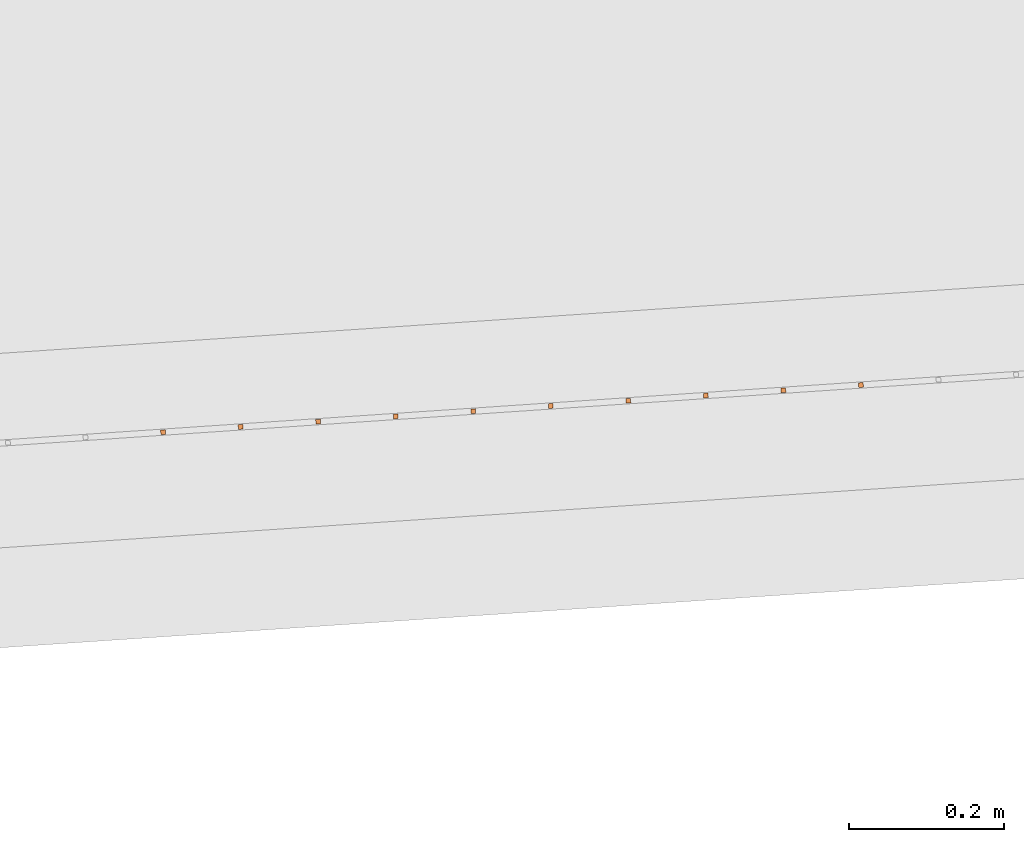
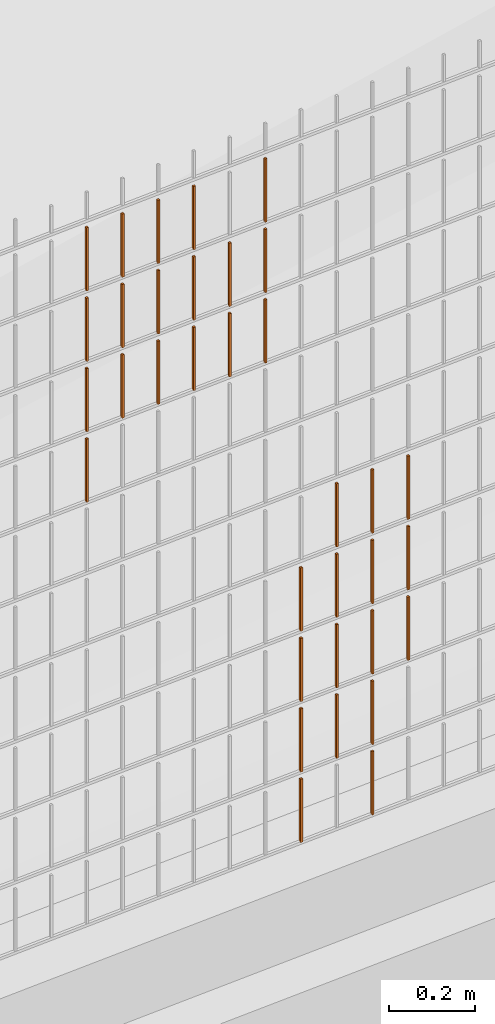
# One storey, part 107 of 1809: 34 proxies, 1 element without a shape of its own.
"""IFC2X3 building model written with IfcOpenShell, lengths in millimetres."""

from ifc_helpers import new_model, entity, si_unit, converted_unit, derived_unit, money_unit, direction, frame, origin_with_axes, place, context, subcontext, project, spatial, faceted_brep, source, transform, mapped, material, type_object, element, aggregate, save


model = new_model("IFC2X3")

# Units and contexts
model_context = context("Model", 3, precision=0.01, world=origin_with_axes(), true_north=direction((0.0, 1.0)))
body_context = subcontext(model_context, "Body", "Model", "MODEL_VIEW")
ifc_project = project(units=[si_unit("LENGTHUNIT", "METRE", prefix="MILLI"), si_unit("AREAUNIT", "SQUARE_METRE"), si_unit("VOLUMEUNIT", "CUBIC_METRE"), converted_unit("PLANEANGLEUNIT", "DEGREE", entity("IfcPlaneAngleMeasure", 0.0174532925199), si_unit("PLANEANGLEUNIT", "RADIAN"), dimensions=[0, 0, 0, 0, 0, 0, 0]), si_unit("SOLIDANGLEUNIT", "STERADIAN"), money_unit("EUR"), converted_unit("TIMEUNIT", "Year", entity("IfcTimeMeasure", 31556926.0), si_unit("TIMEUNIT", "SECOND"), dimensions=[0, 0, 1, 0, 0, 0, 0]), si_unit("MASSUNIT", "GRAM", prefix="KILO"), si_unit("THERMODYNAMICTEMPERATUREUNIT", "DEGREE_CELSIUS"), si_unit("LUMINOUSINTENSITYUNIT", "LUMEN"), si_unit("ENERGYUNIT", "JOULE", prefix="MEGA"), derived_unit("THERMALCONDUCTANCEUNIT", [(si_unit("POWERUNIT", "WATT"), 1), (si_unit("LENGTHUNIT", "METRE"), -1), (si_unit("THERMODYNAMICTEMPERATUREUNIT", "KELVIN"), -1)]), derived_unit("SPECIFICHEATCAPACITYUNIT", [(si_unit("ENERGYUNIT", "JOULE"), 1), (si_unit("MASSUNIT", "GRAM", prefix="KILO"), -1), (si_unit("THERMODYNAMICTEMPERATUREUNIT", "KELVIN"), -1)]), derived_unit("MASSDENSITYUNIT", [(si_unit("MASSUNIT", "GRAM", prefix="KILO"), 1), (si_unit("VOLUMEUNIT", "CUBIC_METRE"), -1)])], contexts=[model_context])

# Site, building, storey
site_placement = place(None, origin_with_axes())
site = spatial("IfcSite", under=ifc_project, at=site_placement, Name="Politse- ja Piirivalveameti ning Päästeameti ühishoone", CompositionType="ELEMENT")
building_placement = place(site_placement, origin_with_axes())
building = spatial("IfcBuilding", under=site, at=building_placement, Name="Politse- ja Piirivalveameti ning Päästeameti ühishoone", CompositionType="ELEMENT")
storey_placement = place(building_placement, origin_with_axes())
storey = spatial("IfcBuildingStorey", under=building, at=storey_placement, Name="Esimene korrus", CompositionType="ELEMENT", Elevation=0.0)

# Proxies
building_element_proxy_type_1 = type_object("IfcBuildingElementProxyType", Name="Railing Type", PredefinedType="NOTDEFINED")
proxy_1_placement = place(storey_placement, frame((89252.001212, -29183.4766571, 203.661247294), z_axis=(0.0, 0.0, 1.0), x_axis=(1.0, 0.0, 0.0)))
proxy_1 = element("IfcBuildingElementProxy", 1, at=proxy_1_placement, inside=storey, type_object=building_element_proxy_type_1, Name="PIIRDEAED")
ifc_material = material(Name="ET-03_Raud")
building_element_proxy_type_2 = type_object("IfcBuildingElementProxyType", Name="IfcBuildingElementProxy", PredefinedType="NOTDEFINED")
shared_shape_1 = source(origin_with_axes(), body_context, "Body", "Brep", [
    faceted_brep([(3.0, 3.0, -0.000752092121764), (-3.0, 3.0, -0.000752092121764), (-3.0, 3.0, 179.99926046), (3.0, 3.0, 179.99926046), (3.0, -3.0, 0.000752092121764), (-3.0, -3.0, 0.000752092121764), (-3.0, -3.0, 180.000764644), (3.0, -3.0, 180.000764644)], [[[0, 1, 2, 3]], [[0, 4, 5, 1]], [[1, 5, 6, 2]], [[3, 2, 6, 7]], [[4, 0, 3, 7]], [[5, 4, 7, 6]]]),
])
proxy_2_placement = place(proxy_1_placement, frame((-93513.603178, -23614.2657487, 203.73735097), z_axis=(0.0, 0.0, 1.0), x_axis=(1.0, 0.0, 0.0)))
proxy_2 = element("IfcBuildingElementProxy", 2, at=proxy_2_placement, type_object=building_element_proxy_type_2, material=ifc_material, Name="BALUSTER - 001", context=body_context, shape_type="MappedRepresentation", body=[
    mapped(shared_shape_1, transform((0.0, 0.0, 0.0), x_axis=(-0.0673926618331, 0.997726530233, 0.0), y_axis=(-0.997726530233, -0.0673926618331, 0.0), z_axis=(0.0, 0.0, 1.0))),
])
proxy_3_placement = place(proxy_1_placement, frame((-93513.603178, -23614.2657487, 603.73735097), z_axis=(0.0, 0.0, 1.0), x_axis=(1.0, 0.0, 0.0)))
proxy_3 = element("IfcBuildingElementProxy", 3, at=proxy_3_placement, type_object=building_element_proxy_type_2, material=ifc_material, Name="BALUSTER - 001", context=body_context, shape_type="MappedRepresentation", body=[
    mapped(shared_shape_1, transform((0.0, 0.0, 0.0), x_axis=(-0.0673926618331, 0.997726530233, 0.0), y_axis=(-0.997726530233, -0.0673926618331, 0.0), z_axis=(0.0, 0.0, 1.0))),
])
shared_shape_2 = source(origin_with_axes(), body_context, "Body", "Brep", [
    faceted_brep([(3.0, 3.0, -0.000752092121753), (-3.0, 3.0, -0.000752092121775), (-3.0, 3.0, 179.99926046), (3.0, 3.0, 179.99926046), (3.0, -3.0, 0.000752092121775), (-3.0, -3.0, 0.000752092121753), (-3.0, -3.0, 180.000764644), (3.0, -3.0, 180.000764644)], [[[0, 1, 2, 3]], [[0, 4, 5, 1]], [[1, 5, 6, 2]], [[3, 2, 6, 7]], [[4, 0, 3, 7]], [[5, 4, 7, 6]]]),
])
proxy_4_placement = place(proxy_1_placement, frame((-93314.057872, -23600.7872163, 3.78749044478), z_axis=(0.0, 0.0, 1.0), x_axis=(1.0, 0.0, 0.0)))
proxy_4 = element("IfcBuildingElementProxy", 4, at=proxy_4_placement, type_object=building_element_proxy_type_2, material=ifc_material, Name="BALUSTER - 001", context=body_context, shape_type="MappedRepresentation", body=[
    mapped(shared_shape_2, transform((0.0, 0.0, 0.0), x_axis=(-0.0673926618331, 0.997726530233, 0.0), y_axis=(-0.997726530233, -0.0673926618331, 0.0), z_axis=(0.0, 0.0, 1.0))),
])
shared_shape_3 = source(origin_with_axes(), body_context, "Body", "Brep", [
    faceted_brep([(3.0, 3.0, -0.000752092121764), (-3.0, 3.0, -0.000752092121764), (-3.0, 3.0, 179.99926046), (3.0, 3.0, 179.99926046), (3.0, -3.0, 0.000752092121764), (-3.0, -3.0, 0.000752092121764), (-3.0, -3.0, 180.000764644), (3.0, -3.0, 180.000764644)], [[[0, 1, 2, 3]], [[0, 4, 5, 1]], [[1, 5, 6, 2]], [[3, 2, 6, 7]], [[4, 0, 3, 7]], [[5, 4, 7, 6]]]),
])
proxy_5_placement = place(proxy_1_placement, frame((-93413.830525, -23607.5264825, 403.762420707), z_axis=(0.0, 0.0, 1.0), x_axis=(1.0, 0.0, 0.0)))
proxy_5 = element("IfcBuildingElementProxy", 5, at=proxy_5_placement, type_object=building_element_proxy_type_2, material=ifc_material, Name="BALUSTER - 001", context=body_context, shape_type="MappedRepresentation", body=[
    mapped(shared_shape_3, transform((0.0, 0.0, 0.0), x_axis=(-0.0673926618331, 0.997726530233, 0.0), y_axis=(-0.997726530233, -0.0673926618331, 0.0), z_axis=(0.0, 0.0, 1.0))),
])
proxy_6_placement = place(proxy_1_placement, frame((-93413.830525, -23607.5264825, 603.762420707), z_axis=(0.0, 0.0, 1.0), x_axis=(1.0, 0.0, 0.0)))
proxy_6 = element("IfcBuildingElementProxy", 6, at=proxy_6_placement, type_object=building_element_proxy_type_2, material=ifc_material, Name="BALUSTER - 001", context=body_context, shape_type="MappedRepresentation", body=[
    mapped(shared_shape_3, transform((0.0, 0.0, 0.0), x_axis=(-0.0673926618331, 0.997726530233, 0.0), y_axis=(-0.997726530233, -0.0673926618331, 0.0), z_axis=(0.0, 0.0, 1.0))),
])
shared_shape_4 = source(origin_with_axes(), body_context, "Body", "Brep", [
    faceted_brep([(3.0, 3.0, -0.000752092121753), (-3.0, 3.0, -0.000752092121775), (-3.0, 3.0, 179.99926046), (3.0, 3.0, 179.99926046), (3.0, -3.0, 0.000752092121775), (-3.0, -3.0, 0.000752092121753), (-3.0, -3.0, 180.000764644), (3.0, -3.0, 180.000764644)], [[[0, 1, 2, 3]], [[0, 4, 5, 1]], [[1, 5, 6, 2]], [[3, 2, 6, 7]], [[4, 0, 3, 7]], [[5, 4, 7, 6]]]),
])
proxy_7_placement = place(proxy_1_placement, frame((-93314.057872, -23600.7872163, 203.787490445), z_axis=(0.0, 0.0, 1.0), x_axis=(1.0, 0.0, 0.0)))
proxy_7 = element("IfcBuildingElementProxy", 7, at=proxy_7_placement, type_object=building_element_proxy_type_2, material=ifc_material, Name="BALUSTER - 001", context=body_context, shape_type="MappedRepresentation", body=[
    mapped(shared_shape_4, transform((0.0, 0.0, 0.0), x_axis=(-0.0673926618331, 0.997726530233, 0.0), y_axis=(-0.997726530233, -0.0673926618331, 0.0), z_axis=(0.0, 0.0, 1.0))),
])
shared_shape_5 = source(origin_with_axes(), body_context, "Body", "Brep", [
    faceted_brep([(3.0, 3.0, -0.000752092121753), (-3.0, 3.0, -0.000752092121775), (-3.0, 3.0, 179.99926046), (3.0, 3.0, 179.99926046), (3.0, -3.0, 0.000752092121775), (-3.0, -3.0, 0.000752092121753), (-3.0, -3.0, 180.000764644), (3.0, -3.0, 180.000764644)], [[[0, 1, 2, 3]], [[0, 4, 5, 1]], [[1, 5, 6, 2]], [[3, 2, 6, 7]], [[4, 0, 3, 7]], [[5, 4, 7, 6]]]),
])
proxy_8_placement = place(proxy_1_placement, frame((-93314.057872, -23600.7872163, 403.787490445), z_axis=(0.0, 0.0, 1.0), x_axis=(1.0, 0.0, 0.0)))
proxy_8 = element("IfcBuildingElementProxy", 8, at=proxy_8_placement, type_object=building_element_proxy_type_2, material=ifc_material, Name="BALUSTER - 001", context=body_context, shape_type="MappedRepresentation", body=[
    mapped(shared_shape_5, transform((0.0, 0.0, 0.0), x_axis=(-0.0673926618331, 0.997726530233, 0.0), y_axis=(-0.997726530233, -0.0673926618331, 0.0), z_axis=(0.0, 0.0, 1.0))),
])
shared_shape_6 = source(origin_with_axes(), body_context, "Body", "Brep", [
    faceted_brep([(3.0, 3.0, -0.000752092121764), (-3.0, 3.0, -0.000752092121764), (-3.0, 3.0, 179.99926046), (3.0, 3.0, 179.99926046), (3.0, -3.0, 0.000752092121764), (-3.0, -3.0, 0.000752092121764), (-3.0, -3.0, 180.000764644), (3.0, -3.0, 180.000764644)], [[[0, 1, 2, 3]], [[0, 4, 5, 1]], [[1, 5, 6, 2]], [[3, 2, 6, 7]], [[4, 0, 3, 7]], [[5, 4, 7, 6]]]),
])
proxy_9_placement = place(proxy_1_placement, frame((-93513.603178, -23614.2657487, 403.73735097), z_axis=(0.0, 0.0, 1.0), x_axis=(1.0, 0.0, 0.0)))
proxy_9 = element("IfcBuildingElementProxy", 9, at=proxy_9_placement, type_object=building_element_proxy_type_2, material=ifc_material, Name="BALUSTER - 001", context=body_context, shape_type="MappedRepresentation", body=[
    mapped(shared_shape_6, transform((0.0, 0.0, 0.0), x_axis=(-0.0673926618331, 0.997726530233, 0.0), y_axis=(-0.997726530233, -0.0673926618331, 0.0), z_axis=(0.0, 0.0, 1.0))),
])
shared_shape_7 = source(origin_with_axes(), body_context, "Body", "Brep", [
    faceted_brep([(3.0, 3.0, -0.000752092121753), (-3.0, 3.0, -0.000752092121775), (-3.0, 3.0, 179.99926046), (3.0, 3.0, 179.99926046), (3.0, -3.0, 0.000752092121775), (-3.0, -3.0, 0.000752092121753), (-3.0, -3.0, 180.000764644), (3.0, -3.0, 180.000764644)], [[[0, 1, 2, 3]], [[0, 4, 5, 1]], [[1, 5, 6, 2]], [[3, 2, 6, 7]], [[4, 0, 3, 7]], [[5, 4, 7, 6]]]),
])
proxy_10_placement = place(proxy_1_placement, frame((-93812.9211371, -23634.4835472, 1403.66214176), z_axis=(0.0, 0.0, 1.0), x_axis=(1.0, 0.0, 0.0)))
proxy_10 = element("IfcBuildingElementProxy", 10, at=proxy_10_placement, type_object=building_element_proxy_type_2, material=ifc_material, Name="BALUSTER - 001", context=body_context, shape_type="MappedRepresentation", body=[
    mapped(shared_shape_7, transform((0.0, 0.0, 0.0), x_axis=(-0.0673926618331, 0.997726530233, 0.0), y_axis=(-0.997726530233, -0.0673926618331, 0.0), z_axis=(0.0, 0.0, 1.0))),
])
proxy_11_placement = place(proxy_1_placement, frame((-93812.9211371, -23634.4835472, 1603.66214176), z_axis=(0.0, 0.0, 1.0), x_axis=(1.0, 0.0, 0.0)))
proxy_11 = element("IfcBuildingElementProxy", 11, at=proxy_11_placement, type_object=building_element_proxy_type_2, material=ifc_material, Name="BALUSTER - 001", context=body_context, shape_type="MappedRepresentation", body=[
    mapped(shared_shape_7, transform((0.0, 0.0, 0.0), x_axis=(-0.0673926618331, 0.997726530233, 0.0), y_axis=(-0.997726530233, -0.0673926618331, 0.0), z_axis=(0.0, 0.0, 1.0))),
])
shared_shape_8 = source(origin_with_axes(), body_context, "Body", "Brep", [
    faceted_brep([(3.0, 3.0, -0.000752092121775), (-3.0, 3.0, -0.000752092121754), (-3.0, 3.0, 179.99926046), (3.0, 3.0, 179.99926046), (3.0, -3.0, 0.000752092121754), (-3.0, -3.0, 0.000752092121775), (-3.0, -3.0, 180.000764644), (3.0, -3.0, 180.000764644)], [[[0, 1, 2, 3]], [[0, 4, 5, 1]], [[1, 5, 6, 2]], [[3, 2, 6, 7]], [[4, 0, 3, 7]], [[5, 4, 7, 6]]]),
])
proxy_12_placement = place(proxy_1_placement, frame((-93713.1484841, -23627.744281, 1403.6872115), z_axis=(0.0, 0.0, 1.0), x_axis=(1.0, 0.0, 0.0)))
proxy_12 = element("IfcBuildingElementProxy", 12, at=proxy_12_placement, type_object=building_element_proxy_type_2, material=ifc_material, Name="BALUSTER - 001", context=body_context, shape_type="MappedRepresentation", body=[
    mapped(shared_shape_8, transform((0.0, 0.0, 0.0), x_axis=(-0.0673926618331, 0.997726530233, 0.0), y_axis=(-0.997726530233, -0.0673926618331, 0.0), z_axis=(0.0, 0.0, 1.0))),
])
proxy_13_placement = place(proxy_1_placement, frame((-93713.1484841, -23627.744281, 1603.6872115), z_axis=(0.0, 0.0, 1.0), x_axis=(1.0, 0.0, 0.0)))
proxy_13 = element("IfcBuildingElementProxy", 13, at=proxy_13_placement, type_object=building_element_proxy_type_2, material=ifc_material, Name="BALUSTER - 001", context=body_context, shape_type="MappedRepresentation", body=[
    mapped(shared_shape_8, transform((0.0, 0.0, 0.0), x_axis=(-0.0673926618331, 0.997726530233, 0.0), y_axis=(-0.997726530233, -0.0673926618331, 0.0), z_axis=(0.0, 0.0, 1.0))),
])
shared_shape_9 = source(origin_with_axes(), body_context, "Body", "Brep", [
    faceted_brep([(3.0, 3.0, -0.000752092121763), (-3.0, 3.0, -0.000752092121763), (-3.0, 3.0, 179.99926046), (3.0, 3.0, 179.99926046), (3.0, -3.0, 0.000752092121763), (-3.0, -3.0, 0.000752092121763), (-3.0, -3.0, 180.000764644), (3.0, -3.0, 180.000764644)], [[[0, 1, 2, 3]], [[0, 4, 5, 1]], [[1, 5, 6, 2]], [[3, 2, 6, 7]], [[4, 0, 3, 7]], [[5, 4, 7, 6]]]),
])
proxy_14_placement = place(proxy_1_placement, frame((-93613.3758311, -23621.0050149, 1803.71228123), z_axis=(0.0, 0.0, 1.0), x_axis=(1.0, 0.0, 0.0)))
proxy_14 = element("IfcBuildingElementProxy", 14, at=proxy_14_placement, type_object=building_element_proxy_type_2, material=ifc_material, Name="BALUSTER - 001", context=body_context, shape_type="MappedRepresentation", body=[
    mapped(shared_shape_9, transform((0.0, 0.0, 0.0), x_axis=(-0.0673926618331, 0.997726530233, 0.0), y_axis=(-0.997726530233, -0.0673926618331, 0.0), z_axis=(0.0, 0.0, 1.0))),
])
shared_shape_10 = source(origin_with_axes(), body_context, "Body", "Brep", [
    faceted_brep([(3.0, 3.0, -0.000752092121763), (-3.0, 3.0, -0.000752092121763), (-3.0, 3.0, 179.99926046), (3.0, 3.0, 179.99926046), (3.0, -3.0, 0.000752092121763), (-3.0, -3.0, 0.000752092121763), (-3.0, -3.0, 180.000764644), (3.0, -3.0, 180.000764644)], [[[0, 1, 2, 3]], [[0, 4, 5, 1]], [[1, 5, 6, 2]], [[3, 2, 6, 7]], [[4, 0, 3, 7]], [[5, 4, 7, 6]]]),
])
proxy_15_placement = place(proxy_1_placement, frame((-93413.830525, -23607.5264825, 803.762420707), z_axis=(0.0, 0.0, 1.0), x_axis=(1.0, 0.0, 0.0)))
proxy_15 = element("IfcBuildingElementProxy", 15, at=proxy_15_placement, type_object=building_element_proxy_type_2, material=ifc_material, Name="BALUSTER - 001", context=body_context, shape_type="MappedRepresentation", body=[
    mapped(shared_shape_10, transform((0.0, 0.0, 0.0), x_axis=(-0.0673926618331, 0.997726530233, 0.0), y_axis=(-0.997726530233, -0.0673926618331, 0.0), z_axis=(0.0, 0.0, 1.0))),
])
shared_shape_11 = source(origin_with_axes(), body_context, "Body", "Brep", [
    faceted_brep([(3.0, 3.0, -0.000752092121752), (-3.0, 3.0, -0.000752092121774), (-3.0, 3.0, 179.99926046), (3.0, 3.0, 179.99926046), (3.0, -3.0, 0.000752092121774), (-3.0, -3.0, 0.000752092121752), (-3.0, -3.0, 180.000764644), (3.0, -3.0, 180.000764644)], [[[0, 1, 2, 3]], [[0, 4, 5, 1]], [[1, 5, 6, 2]], [[3, 2, 6, 7]], [[4, 0, 3, 7]], [[5, 4, 7, 6]]]),
])
proxy_16_placement = place(proxy_1_placement, frame((-93314.057872, -23600.7872163, 803.787490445), z_axis=(0.0, 0.0, 1.0), x_axis=(1.0, 0.0, 0.0)))
proxy_16 = element("IfcBuildingElementProxy", 16, at=proxy_16_placement, type_object=building_element_proxy_type_2, material=ifc_material, Name="BALUSTER - 001", context=body_context, shape_type="MappedRepresentation", body=[
    mapped(shared_shape_11, transform((0.0, 0.0, 0.0), x_axis=(-0.0673926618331, 0.997726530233, 0.0), y_axis=(-0.997726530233, -0.0673926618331, 0.0), z_axis=(0.0, 0.0, 1.0))),
])
shared_shape_12 = source(origin_with_axes(), body_context, "Body", "Brep", [
    faceted_brep([(3.0, 3.0, -0.000752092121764), (-3.0, 3.0, -0.000752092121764), (-3.0, 3.0, 179.99926046), (3.0, 3.0, 179.99926046), (3.0, -3.0, 0.000752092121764), (-3.0, -3.0, 0.000752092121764), (-3.0, -3.0, 180.000764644), (3.0, -3.0, 180.000764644)], [[[0, 1, 2, 3]], [[0, 4, 5, 1]], [[1, 5, 6, 2]], [[3, 2, 6, 7]], [[4, 0, 3, 7]], [[5, 4, 7, 6]]]),
])
proxy_17_placement = place(proxy_1_placement, frame((-94012.4664431, -23647.9620796, 1803.61200228), z_axis=(0.0, 0.0, 1.0), x_axis=(1.0, 0.0, 0.0)))
proxy_17 = element("IfcBuildingElementProxy", 17, at=proxy_17_placement, type_object=building_element_proxy_type_2, material=ifc_material, Name="BALUSTER - 001", context=body_context, shape_type="MappedRepresentation", body=[
    mapped(shared_shape_12, transform((0.0, 0.0, 0.0), x_axis=(-0.0673926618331, 0.997726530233, 0.0), y_axis=(-0.997726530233, -0.0673926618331, 0.0), z_axis=(0.0, 0.0, 1.0))),
])
shared_shape_13 = source(origin_with_axes(), body_context, "Body", "Brep", [
    faceted_brep([(3.0, 3.0, -0.000752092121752), (-3.0, 3.0, -0.000752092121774), (-3.0, 3.0, 179.99926046), (3.0, 3.0, 179.99926046), (3.0, -3.0, 0.000752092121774), (-3.0, -3.0, 0.000752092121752), (-3.0, -3.0, 180.000764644), (3.0, -3.0, 180.000764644)], [[[0, 1, 2, 3]], [[0, 4, 5, 1]], [[1, 5, 6, 2]], [[3, 2, 6, 7]], [[4, 0, 3, 7]], [[5, 4, 7, 6]]]),
])
proxy_18_placement = place(proxy_1_placement, frame((-93214.285219, -23594.0479501, 803.812560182), z_axis=(0.0, 0.0, 1.0), x_axis=(1.0, 0.0, 0.0)))
proxy_18 = element("IfcBuildingElementProxy", 18, at=proxy_18_placement, type_object=building_element_proxy_type_2, material=ifc_material, Name="BALUSTER - 001", context=body_context, shape_type="MappedRepresentation", body=[
    mapped(shared_shape_13, transform((0.0, 0.0, 0.0), x_axis=(-0.0673926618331, 0.997726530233, 0.0), y_axis=(-0.997726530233, -0.0673926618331, 0.0), z_axis=(0.0, 0.0, 1.0))),
])
shared_shape_14 = source(origin_with_axes(), body_context, "Body", "Brep", [
    faceted_brep([(3.0, 3.0, -0.000752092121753), (-3.0, 3.0, -0.000752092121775), (-3.0, 3.0, 179.99926046), (3.0, 3.0, 179.99926046), (3.0, -3.0, 0.000752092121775), (-3.0, -3.0, 0.000752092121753), (-3.0, -3.0, 180.000764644), (3.0, -3.0, 180.000764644)], [[[0, 1, 2, 3]], [[0, 4, 5, 1]], [[1, 5, 6, 2]], [[3, 2, 6, 7]], [[4, 0, 3, 7]], [[5, 4, 7, 6]]]),
])
proxy_19_placement = place(proxy_1_placement, frame((-93314.057872, -23600.7872163, 603.787490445), z_axis=(0.0, 0.0, 1.0), x_axis=(1.0, 0.0, 0.0)))
proxy_19 = element("IfcBuildingElementProxy", 19, at=proxy_19_placement, type_object=building_element_proxy_type_2, material=ifc_material, Name="BALUSTER - 001", context=body_context, shape_type="MappedRepresentation", body=[
    mapped(shared_shape_14, transform((0.0, 0.0, 0.0), x_axis=(-0.0673926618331, 0.997726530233, 0.0), y_axis=(-0.997726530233, -0.0673926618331, 0.0), z_axis=(0.0, 0.0, 1.0))),
])
shared_shape_15 = source(origin_with_axes(), body_context, "Body", "Brep", [
    faceted_brep([(3.0, 3.0, -0.000752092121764), (-3.0, 3.0, -0.000752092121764), (-3.0, 3.0, 179.99926046), (3.0, 3.0, 179.99926046), (3.0, -3.0, 0.000752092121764), (-3.0, -3.0, 0.000752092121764), (-3.0, -3.0, 180.000764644), (3.0, -3.0, 180.000764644)], [[[0, 1, 2, 3]], [[0, 4, 5, 1]], [[1, 5, 6, 2]], [[3, 2, 6, 7]], [[4, 0, 3, 7]], [[5, 4, 7, 6]]]),
])
proxy_20_placement = place(proxy_1_placement, frame((-93513.603178, -23614.2657487, 3.73735096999), z_axis=(0.0, 0.0, 1.0), x_axis=(1.0, 0.0, 0.0)))
proxy_20 = element("IfcBuildingElementProxy", 20, at=proxy_20_placement, type_object=building_element_proxy_type_2, material=ifc_material, Name="BALUSTER - 001", context=body_context, shape_type="MappedRepresentation", body=[
    mapped(shared_shape_15, transform((0.0, 0.0, 0.0), x_axis=(-0.0673926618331, 0.997726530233, 0.0), y_axis=(-0.997726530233, -0.0673926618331, 0.0), z_axis=(0.0, 0.0, 1.0))),
])
shared_shape_16 = source(origin_with_axes(), body_context, "Body", "Brep", [
    faceted_brep([(3.0, 3.0, -0.000752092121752), (-3.0, 3.0, -0.000752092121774), (-3.0, 3.0, 179.99926046), (3.0, 3.0, 179.99926046), (3.0, -3.0, 0.000752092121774), (-3.0, -3.0, 0.000752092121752), (-3.0, -3.0, 180.000764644), (3.0, -3.0, 180.000764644)], [[[0, 1, 2, 3]], [[0, 4, 5, 1]], [[1, 5, 6, 2]], [[3, 2, 6, 7]], [[4, 0, 3, 7]], [[5, 4, 7, 6]]]),
])
proxy_21_placement = place(proxy_1_placement, frame((-93214.285219, -23594.0479501, 403.812560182), z_axis=(0.0, 0.0, 1.0), x_axis=(1.0, 0.0, 0.0)))
proxy_21 = element("IfcBuildingElementProxy", 21, at=proxy_21_placement, type_object=building_element_proxy_type_2, material=ifc_material, Name="BALUSTER - 001", context=body_context, shape_type="MappedRepresentation", body=[
    mapped(shared_shape_16, transform((0.0, 0.0, 0.0), x_axis=(-0.0673926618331, 0.997726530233, 0.0), y_axis=(-0.997726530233, -0.0673926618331, 0.0), z_axis=(0.0, 0.0, 1.0))),
])
shared_shape_17 = source(origin_with_axes(), body_context, "Body", "Brep", [
    faceted_brep([(3.0, 3.0, -0.000752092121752), (-3.0, 3.0, -0.000752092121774), (-3.0, 3.0, 179.99926046), (3.0, 3.0, 179.99926046), (3.0, -3.0, 0.000752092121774), (-3.0, -3.0, 0.000752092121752), (-3.0, -3.0, 180.000764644), (3.0, -3.0, 180.000764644)], [[[0, 1, 2, 3]], [[0, 4, 5, 1]], [[1, 5, 6, 2]], [[3, 2, 6, 7]], [[4, 0, 3, 7]], [[5, 4, 7, 6]]]),
])
proxy_22_placement = place(proxy_1_placement, frame((-93214.285219, -23594.0479501, 603.812560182), z_axis=(0.0, 0.0, 1.0), x_axis=(1.0, 0.0, 0.0)))
proxy_22 = element("IfcBuildingElementProxy", 22, at=proxy_22_placement, type_object=building_element_proxy_type_2, material=ifc_material, Name="BALUSTER - 001", context=body_context, shape_type="MappedRepresentation", body=[
    mapped(shared_shape_17, transform((0.0, 0.0, 0.0), x_axis=(-0.0673926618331, 0.997726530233, 0.0), y_axis=(-0.997726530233, -0.0673926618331, 0.0), z_axis=(0.0, 0.0, 1.0))),
])
shared_shape_18 = source(origin_with_axes(), body_context, "Body", "Brep", [
    faceted_brep([(3.0, 3.0, -0.000752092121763), (-3.0, 3.0, -0.000752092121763), (-3.0, 3.0, 179.99926046), (3.0, 3.0, 179.99926046), (3.0, -3.0, 0.000752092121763), (-3.0, -3.0, 0.000752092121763), (-3.0, -3.0, 180.000764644), (3.0, -3.0, 180.000764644)], [[[0, 1, 2, 3]], [[0, 4, 5, 1]], [[1, 5, 6, 2]], [[3, 2, 6, 7]], [[4, 0, 3, 7]], [[5, 4, 7, 6]]]),
])
proxy_23_placement = place(proxy_1_placement, frame((-93613.3758311, -23621.0050149, 1403.71228123), z_axis=(0.0, 0.0, 1.0), x_axis=(1.0, 0.0, 0.0)))
proxy_23 = element("IfcBuildingElementProxy", 23, at=proxy_23_placement, type_object=building_element_proxy_type_2, material=ifc_material, Name="BALUSTER - 001", context=body_context, shape_type="MappedRepresentation", body=[
    mapped(shared_shape_18, transform((0.0, 0.0, 0.0), x_axis=(-0.0673926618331, 0.997726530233, 0.0), y_axis=(-0.997726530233, -0.0673926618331, 0.0), z_axis=(0.0, 0.0, 1.0))),
])
proxy_24_placement = place(proxy_1_placement, frame((-93613.3758311, -23621.0050149, 1603.71228123), z_axis=(0.0, 0.0, 1.0), x_axis=(1.0, 0.0, 0.0)))
proxy_24 = element("IfcBuildingElementProxy", 24, at=proxy_24_placement, type_object=building_element_proxy_type_2, material=ifc_material, Name="BALUSTER - 001", context=body_context, shape_type="MappedRepresentation", body=[
    mapped(shared_shape_18, transform((0.0, 0.0, 0.0), x_axis=(-0.0673926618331, 0.997726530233, 0.0), y_axis=(-0.997726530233, -0.0673926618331, 0.0), z_axis=(0.0, 0.0, 1.0))),
])
shared_shape_19 = source(origin_with_axes(), body_context, "Body", "Brep", [
    faceted_brep([(3.0, 3.0, -0.000752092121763), (-3.0, 3.0, -0.000752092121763), (-3.0, 3.0, 179.99926046), (3.0, 3.0, 179.99926046), (3.0, -3.0, 0.000752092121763), (-3.0, -3.0, 0.000752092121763), (-3.0, -3.0, 180.000764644), (3.0, -3.0, 180.000764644)], [[[0, 1, 2, 3]], [[0, 4, 5, 1]], [[1, 5, 6, 2]], [[3, 2, 6, 7]], [[4, 0, 3, 7]], [[5, 4, 7, 6]]]),
])
proxy_25_placement = place(proxy_1_placement, frame((-93413.830525, -23607.5264825, 203.762420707), z_axis=(0.0, 0.0, 1.0), x_axis=(1.0, 0.0, 0.0)))
proxy_25 = element("IfcBuildingElementProxy", 25, at=proxy_25_placement, type_object=building_element_proxy_type_2, material=ifc_material, Name="BALUSTER - 001", context=body_context, shape_type="MappedRepresentation", body=[
    mapped(shared_shape_19, transform((0.0, 0.0, 0.0), x_axis=(-0.0673926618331, 0.997726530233, 0.0), y_axis=(-0.997726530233, -0.0673926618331, 0.0), z_axis=(0.0, 0.0, 1.0))),
])
shared_shape_20 = source(origin_with_axes(), body_context, "Body", "Brep", [
    faceted_brep([(3.0, 3.0, -0.000752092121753), (-3.0, 3.0, -0.000752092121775), (-3.0, 3.0, 179.99926046), (3.0, 3.0, 179.99926046), (3.0, -3.0, 0.000752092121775), (-3.0, -3.0, 0.000752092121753), (-3.0, -3.0, 180.000764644), (3.0, -3.0, 180.000764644)], [[[0, 1, 2, 3]], [[0, 4, 5, 1]], [[1, 5, 6, 2]], [[3, 2, 6, 7]], [[4, 0, 3, 7]], [[5, 4, 7, 6]]]),
])
proxy_26_placement = place(proxy_1_placement, frame((-93812.9211371, -23634.4835472, 1803.66214176), z_axis=(0.0, 0.0, 1.0), x_axis=(1.0, 0.0, 0.0)))
proxy_26 = element("IfcBuildingElementProxy", 26, at=proxy_26_placement, type_object=building_element_proxy_type_2, material=ifc_material, Name="BALUSTER - 001", context=body_context, shape_type="MappedRepresentation", body=[
    mapped(shared_shape_20, transform((0.0, 0.0, 0.0), x_axis=(-0.0673926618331, 0.997726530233, 0.0), y_axis=(-0.997726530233, -0.0673926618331, 0.0), z_axis=(0.0, 0.0, 1.0))),
])
shared_shape_21 = source(origin_with_axes(), body_context, "Body", "Brep", [
    faceted_brep([(3.0, 3.0, -0.000752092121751), (-3.0, 3.0, -0.000752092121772), (-3.0, 3.0, 179.99926046), (3.0, 3.0, 179.99926046), (3.0, -3.0, 0.000752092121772), (-3.0, -3.0, 0.000752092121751), (-3.0, -3.0, 180.000764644), (3.0, -3.0, 180.000764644)], [[[0, 1, 2, 3]], [[0, 4, 5, 1]], [[1, 5, 6, 2]], [[3, 2, 6, 7]], [[4, 0, 3, 7]], [[5, 4, 7, 6]]]),
])
proxy_27_placement = place(proxy_1_placement, frame((-94112.2390962, -23654.7013458, 1203.58693255), z_axis=(0.0, 0.0, 1.0), x_axis=(1.0, 0.0, 0.0)))
proxy_27 = element("IfcBuildingElementProxy", 27, at=proxy_27_placement, type_object=building_element_proxy_type_2, material=ifc_material, Name="BALUSTER - 001", context=body_context, shape_type="MappedRepresentation", body=[
    mapped(shared_shape_21, transform((0.0, 0.0, 0.0), x_axis=(-0.0673926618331, 0.997726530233, 0.0), y_axis=(-0.997726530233, -0.0673926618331, 0.0), z_axis=(0.0, 0.0, 1.0))),
])
shared_shape_22 = source(origin_with_axes(), body_context, "Body", "Brep", [
    faceted_brep([(3.0, 3.0, -0.000752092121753), (-3.0, 3.0, -0.000752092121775), (-3.0, 3.0, 179.99926046), (3.0, 3.0, 179.99926046), (3.0, -3.0, 0.000752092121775), (-3.0, -3.0, 0.000752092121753), (-3.0, -3.0, 180.000764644), (3.0, -3.0, 180.000764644)], [[[0, 1, 2, 3]], [[0, 4, 5, 1]], [[1, 5, 6, 2]], [[3, 2, 6, 7]], [[4, 0, 3, 7]], [[5, 4, 7, 6]]]),
])
proxy_28_placement = place(proxy_1_placement, frame((-93912.6937901, -23641.2228134, 1403.63707202), z_axis=(0.0, 0.0, 1.0), x_axis=(1.0, 0.0, 0.0)))
proxy_28 = element("IfcBuildingElementProxy", 28, at=proxy_28_placement, type_object=building_element_proxy_type_2, material=ifc_material, Name="BALUSTER - 001", context=body_context, shape_type="MappedRepresentation", body=[
    mapped(shared_shape_22, transform((0.0, 0.0, 0.0), x_axis=(-0.0673926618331, 0.997726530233, 0.0), y_axis=(-0.997726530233, -0.0673926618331, 0.0), z_axis=(0.0, 0.0, 1.0))),
])
proxy_29_placement = place(proxy_1_placement, frame((-93912.6937901, -23641.2228134, 1603.63707202), z_axis=(0.0, 0.0, 1.0), x_axis=(1.0, 0.0, 0.0)))
proxy_29 = element("IfcBuildingElementProxy", 29, at=proxy_29_placement, type_object=building_element_proxy_type_2, material=ifc_material, Name="BALUSTER - 001", context=body_context, shape_type="MappedRepresentation", body=[
    mapped(shared_shape_22, transform((0.0, 0.0, 0.0), x_axis=(-0.0673926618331, 0.997726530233, 0.0), y_axis=(-0.997726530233, -0.0673926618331, 0.0), z_axis=(0.0, 0.0, 1.0))),
])
shared_shape_23 = source(origin_with_axes(), body_context, "Body", "Brep", [
    faceted_brep([(3.0, 3.0, -0.000752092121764), (-3.0, 3.0, -0.000752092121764), (-3.0, 3.0, 179.99926046), (3.0, 3.0, 179.99926046), (3.0, -3.0, 0.000752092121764), (-3.0, -3.0, 0.000752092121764), (-3.0, -3.0, 180.000764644), (3.0, -3.0, 180.000764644)], [[[0, 1, 2, 3]], [[0, 4, 5, 1]], [[1, 5, 6, 2]], [[3, 2, 6, 7]], [[4, 0, 3, 7]], [[5, 4, 7, 6]]]),
])
proxy_30_placement = place(proxy_1_placement, frame((-94012.4664431, -23647.9620796, 1403.61200228), z_axis=(0.0, 0.0, 1.0), x_axis=(1.0, 0.0, 0.0)))
proxy_30 = element("IfcBuildingElementProxy", 30, at=proxy_30_placement, type_object=building_element_proxy_type_2, material=ifc_material, Name="BALUSTER - 001", context=body_context, shape_type="MappedRepresentation", body=[
    mapped(shared_shape_23, transform((0.0, 0.0, 0.0), x_axis=(-0.0673926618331, 0.997726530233, 0.0), y_axis=(-0.997726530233, -0.0673926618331, 0.0), z_axis=(0.0, 0.0, 1.0))),
])
proxy_31_placement = place(proxy_1_placement, frame((-94012.4664431, -23647.9620796, 1603.61200228), z_axis=(0.0, 0.0, 1.0), x_axis=(1.0, 0.0, 0.0)))
proxy_31 = element("IfcBuildingElementProxy", 31, at=proxy_31_placement, type_object=building_element_proxy_type_2, material=ifc_material, Name="BALUSTER - 001", context=body_context, shape_type="MappedRepresentation", body=[
    mapped(shared_shape_23, transform((0.0, 0.0, 0.0), x_axis=(-0.0673926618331, 0.997726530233, 0.0), y_axis=(-0.997726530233, -0.0673926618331, 0.0), z_axis=(0.0, 0.0, 1.0))),
])
shared_shape_24 = source(origin_with_axes(), body_context, "Body", "Brep", [
    faceted_brep([(3.0, 3.0, -0.000752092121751), (-3.0, 3.0, -0.000752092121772), (-3.0, 3.0, 179.99926046), (3.0, 3.0, 179.99926046), (3.0, -3.0, 0.000752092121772), (-3.0, -3.0, 0.000752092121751), (-3.0, -3.0, 180.000764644), (3.0, -3.0, 180.000764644)], [[[0, 1, 2, 3]], [[0, 4, 5, 1]], [[1, 5, 6, 2]], [[3, 2, 6, 7]], [[4, 0, 3, 7]], [[5, 4, 7, 6]]]),
])
proxy_32_placement = place(proxy_1_placement, frame((-94112.2390962, -23654.7013458, 1403.58693255), z_axis=(0.0, 0.0, 1.0), x_axis=(1.0, 0.0, 0.0)))
proxy_32 = element("IfcBuildingElementProxy", 32, at=proxy_32_placement, type_object=building_element_proxy_type_2, material=ifc_material, Name="BALUSTER - 001", context=body_context, shape_type="MappedRepresentation", body=[
    mapped(shared_shape_24, transform((0.0, 0.0, 0.0), x_axis=(-0.0673926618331, 0.997726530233, 0.0), y_axis=(-0.997726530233, -0.0673926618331, 0.0), z_axis=(0.0, 0.0, 1.0))),
])
proxy_33_placement = place(proxy_1_placement, frame((-94112.2390962, -23654.7013458, 1603.58693255), z_axis=(0.0, 0.0, 1.0), x_axis=(1.0, 0.0, 0.0)))
proxy_33 = element("IfcBuildingElementProxy", 33, at=proxy_33_placement, type_object=building_element_proxy_type_2, material=ifc_material, Name="BALUSTER - 001", context=body_context, shape_type="MappedRepresentation", body=[
    mapped(shared_shape_24, transform((0.0, 0.0, 0.0), x_axis=(-0.0673926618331, 0.997726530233, 0.0), y_axis=(-0.997726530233, -0.0673926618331, 0.0), z_axis=(0.0, 0.0, 1.0))),
])
shared_shape_25 = source(origin_with_axes(), body_context, "Body", "Brep", [
    faceted_brep([(3.0, 3.0, -0.000752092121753), (-3.0, 3.0, -0.000752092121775), (-3.0, 3.0, 179.99926046), (3.0, 3.0, 179.99926046), (3.0, -3.0, 0.000752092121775), (-3.0, -3.0, 0.000752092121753), (-3.0, -3.0, 180.000764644), (3.0, -3.0, 180.000764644)], [[[0, 1, 2, 3]], [[0, 4, 5, 1]], [[1, 5, 6, 2]], [[3, 2, 6, 7]], [[4, 0, 3, 7]], [[5, 4, 7, 6]]]),
])
proxy_34_placement = place(proxy_1_placement, frame((-93912.6937901, -23641.2228134, 1803.63707202), z_axis=(0.0, 0.0, 1.0), x_axis=(1.0, 0.0, 0.0)))
proxy_34 = element("IfcBuildingElementProxy", 34, at=proxy_34_placement, type_object=building_element_proxy_type_2, material=ifc_material, Name="BALUSTER - 001", context=body_context, shape_type="MappedRepresentation", body=[
    mapped(shared_shape_25, transform((0.0, 0.0, 0.0), x_axis=(-0.0673926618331, 0.997726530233, 0.0), y_axis=(-0.997726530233, -0.0673926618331, 0.0), z_axis=(0.0, 0.0, 1.0))),
])
shared_shape_26 = source(origin_with_axes(), body_context, "Body", "Brep", [
    faceted_brep([(3.0, 3.0, -0.000752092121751), (-3.0, 3.0, -0.000752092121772), (-3.0, 3.0, 179.99926046), (3.0, 3.0, 179.99926046), (3.0, -3.0, 0.000752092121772), (-3.0, -3.0, 0.000752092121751), (-3.0, -3.0, 180.000764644), (3.0, -3.0, 180.000764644)], [[[0, 1, 2, 3]], [[0, 4, 5, 1]], [[1, 5, 6, 2]], [[3, 2, 6, 7]], [[4, 0, 3, 7]], [[5, 4, 7, 6]]]),
])
proxy_35_placement = place(proxy_1_placement, frame((-94112.2390962, -23654.7013458, 1803.58693255), z_axis=(0.0, 0.0, 1.0), x_axis=(1.0, 0.0, 0.0)))
proxy_35 = element("IfcBuildingElementProxy", 35, at=proxy_35_placement, type_object=building_element_proxy_type_2, material=ifc_material, Name="BALUSTER - 001", context=body_context, shape_type="MappedRepresentation", body=[
    mapped(shared_shape_26, transform((0.0, 0.0, 0.0), x_axis=(-0.0673926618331, 0.997726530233, 0.0), y_axis=(-0.997726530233, -0.0673926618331, 0.0), z_axis=(0.0, 0.0, 1.0))),
])
aggregate(proxy_1, [proxy_4, proxy_20, proxy_7, proxy_25, proxy_2, proxy_21, proxy_8, proxy_5, proxy_9, proxy_22, proxy_19, proxy_6, proxy_3, proxy_18, proxy_16, proxy_15, proxy_27, proxy_23, proxy_12, proxy_10, proxy_28, proxy_30, proxy_32, proxy_24, proxy_13, proxy_11, proxy_29, proxy_31, proxy_33, proxy_14, proxy_26, proxy_34, proxy_17, proxy_35])

save(model, "model.ifc")
